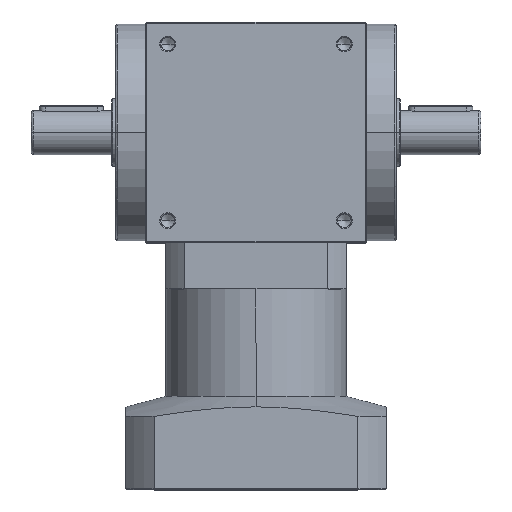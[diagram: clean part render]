
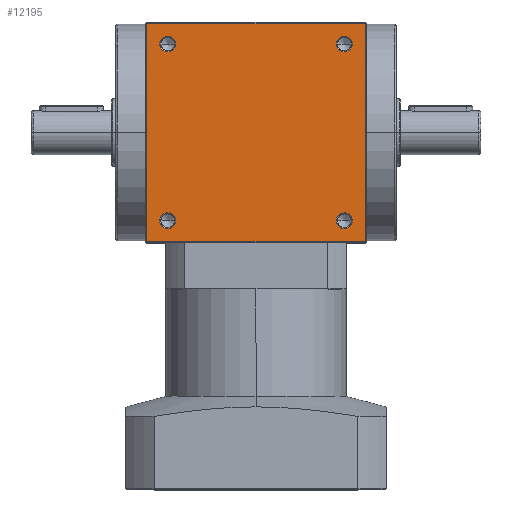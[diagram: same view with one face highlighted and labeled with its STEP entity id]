
A CAD part, top view. The second image highlights one B-rep face of the part: STEP entity #12195.
In plain terms, the highlighted planar face has unit normal (0, 0, 1).
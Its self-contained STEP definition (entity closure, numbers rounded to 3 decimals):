
#14 = EDGE_LOOP ( 'NONE', ( #1910, #8520 ) ) ;
#142 = VECTOR ( 'NONE', #5397, 1000. ) ;
#143 = CARTESIAN_POINT ( 'NONE',  ( 54.5, -54.5, 55. ) ) ;
#589 = CARTESIAN_POINT ( 'NONE',  ( -44., -40.1, 55. ) ) ;
#760 = DIRECTION ( 'NONE',  ( 0., -1., 0. ) ) ;
#852 = CARTESIAN_POINT ( 'NONE',  ( 40.1, 44., 55. ) ) ;
#868 = DIRECTION ( 'NONE',  ( 0., -1., 0. ) ) ;
#888 = CARTESIAN_POINT ( 'NONE',  ( 44., 44., 55. ) ) ;
#982 = CARTESIAN_POINT ( 'NONE',  ( -44., 44., 55. ) ) ;
#1015 = ORIENTED_EDGE ( 'NONE', *, *, #3643, .F. ) ;
#1024 = DIRECTION ( 'NONE',  ( 0., -1., 0. ) ) ;
#1037 = DIRECTION ( 'NONE',  ( 0., 0., 1. ) ) ;
#1047 = CARTESIAN_POINT ( 'NONE',  ( -44., -44., 55. ) ) ;
#1146 = CARTESIAN_POINT ( 'NONE',  ( -54.5, -54.5, 55. ) ) ;
#1253 = AXIS2_PLACEMENT_3D ( 'NONE', #1047, #1037, #1024 ) ;
#1785 = EDGE_CURVE ( 'NONE', #11563, #1845, #8173, .T. ) ;
#1845 = VERTEX_POINT ( 'NONE', #589 ) ;
#1851 = DIRECTION ( 'NONE',  ( 1., 0., 0. ) ) ;
#1910 = ORIENTED_EDGE ( 'NONE', *, *, #10481, .F. ) ;
#1981 = DIRECTION ( 'NONE',  ( 0., 0., 1. ) ) ;
#2032 = CARTESIAN_POINT ( 'NONE',  ( -44., -44., 55. ) ) ;
#2167 = CIRCLE ( 'NONE', #5745, 3.9 ) ;
#2204 = DIRECTION ( 'NONE',  ( 0., 0., -1. ) ) ;
#2313 = CIRCLE ( 'NONE', #8704, 3.9 ) ;
#2352 = EDGE_CURVE ( 'NONE', #10048, #9901, #10584, .T. ) ;
#2376 = CARTESIAN_POINT ( 'NONE',  ( 47.9, 44., 55. ) ) ;
#2526 = CARTESIAN_POINT ( 'NONE',  ( 0., 54.5, 55. ) ) ;
#2738 = DIRECTION ( 'NONE',  ( -1., 0., 0. ) ) ;
#3001 = AXIS2_PLACEMENT_3D ( 'NONE', #2032, #1981, #868 ) ;
#3063 = VERTEX_POINT ( 'NONE', #8662 ) ;
#3067 = CARTESIAN_POINT ( 'NONE',  ( 44., -44., 55. ) ) ;
#3335 = DIRECTION ( 'NONE',  ( 0., -1., 0. ) ) ;
#3350 = DIRECTION ( 'NONE',  ( 0., 0., 1. ) ) ;
#3353 = CARTESIAN_POINT ( 'NONE',  ( -44., 44., 55. ) ) ;
#3553 = VERTEX_POINT ( 'NONE', #4336 ) ;
#3643 = EDGE_CURVE ( 'NONE', #10087, #8526, #11285, .T. ) ;
#3749 = CARTESIAN_POINT ( 'NONE',  ( 54.5, 0., 55. ) ) ;
#3999 = DIRECTION ( 'NONE',  ( 0., -1., 0. ) ) ;
#4016 = EDGE_CURVE ( 'NONE', #8526, #10087, #8167, .T. ) ;
#4147 = ORIENTED_EDGE ( 'NONE', *, *, #2352, .T. ) ;
#4262 = EDGE_LOOP ( 'NONE', ( #8262, #8546, #4147, #5557 ) ) ;
#4336 = CARTESIAN_POINT ( 'NONE',  ( 44., -40.1, 55. ) ) ;
#4386 = ORIENTED_EDGE ( 'NONE', *, *, #8898, .F. ) ;
#4892 = FACE_OUTER_BOUND ( 'NONE', #4262, .T. ) ;
#4915 = ORIENTED_EDGE ( 'NONE', *, *, #5138, .F. ) ;
#5138 = EDGE_CURVE ( 'NONE', #1845, #11563, #9168, .T. ) ;
#5196 = AXIS2_PLACEMENT_3D ( 'NONE', #7816, #2204, #8770 ) ;
#5397 = DIRECTION ( 'NONE',  ( -1., 0., 0. ) ) ;
#5541 = DIRECTION ( 'NONE',  ( 0., -1., 0. ) ) ;
#5557 = ORIENTED_EDGE ( 'NONE', *, *, #7506, .F. ) ;
#5585 = CARTESIAN_POINT ( 'NONE',  ( -54.5, 0., 55. ) ) ;
#5613 = FACE_BOUND ( 'NONE', #10099, .T. ) ;
#5635 = ORIENTED_EDGE ( 'NONE', *, *, #4016, .F. ) ;
#5683 = PLANE ( 'NONE',  #5196 ) ;
#5691 = FACE_BOUND ( 'NONE', #6092, .T. ) ;
#5697 = AXIS2_PLACEMENT_3D ( 'NONE', #888, #7490, #1851 ) ;
#5745 = AXIS2_PLACEMENT_3D ( 'NONE', #12005, #6396, #760 ) ;
#5797 = EDGE_CURVE ( 'NONE', #11637, #10062, #2313, .T. ) ;
#5888 = CIRCLE ( 'NONE', #7068, 3.9 ) ;
#5922 = FACE_BOUND ( 'NONE', #14, .T. ) ;
#5975 = DIRECTION ( 'NONE',  ( 1., 0., 0. ) ) ;
#5989 = DIRECTION ( 'NONE',  ( 0., 0., 1. ) ) ;
#6028 = CARTESIAN_POINT ( 'NONE',  ( 44., 44., 55. ) ) ;
#6092 = EDGE_LOOP ( 'NONE', ( #1015, #5635 ) ) ;
#6396 = DIRECTION ( 'NONE',  ( 0., 0., 1. ) ) ;
#7068 = AXIS2_PLACEMENT_3D ( 'NONE', #3067, #9633, #3999 ) ;
#7229 = AXIS2_PLACEMENT_3D ( 'NONE', #982, #8626, #10730 ) ;
#7260 = ORIENTED_EDGE ( 'NONE', *, *, #1785, .F. ) ;
#7285 = CARTESIAN_POINT ( 'NONE',  ( -44., 47.9, 55. ) ) ;
#7289 = CARTESIAN_POINT ( 'NONE',  ( -44., 40.1, 55. ) ) ;
#7307 = EDGE_LOOP ( 'NONE', ( #9920, #4386 ) ) ;
#7490 = DIRECTION ( 'NONE',  ( 0., 0., 1. ) ) ;
#7506 = EDGE_CURVE ( 'NONE', #7751, #9901, #9976, .T. ) ;
#7659 = VERTEX_POINT ( 'NONE', #143 ) ;
#7751 = VERTEX_POINT ( 'NONE', #1146 ) ;
#7813 = CARTESIAN_POINT ( 'NONE',  ( -44., -47.9, 55. ) ) ;
#7816 = CARTESIAN_POINT ( 'NONE',  ( 0., 0., 55. ) ) ;
#7979 = VECTOR ( 'NONE', #5541, 1000. ) ;
#8167 = CIRCLE ( 'NONE', #7229, 3.9 ) ;
#8173 = CIRCLE ( 'NONE', #1253, 3.9 ) ;
#8262 = ORIENTED_EDGE ( 'NONE', *, *, #9296, .F. ) ;
#8311 = EDGE_CURVE ( 'NONE', #10048, #7659, #11233, .T. ) ;
#8520 = ORIENTED_EDGE ( 'NONE', *, *, #5797, .F. ) ;
#8526 = VERTEX_POINT ( 'NONE', #7285 ) ;
#8546 = ORIENTED_EDGE ( 'NONE', *, *, #8311, .F. ) ;
#8626 = DIRECTION ( 'NONE',  ( 0., 0., 1. ) ) ;
#8662 = CARTESIAN_POINT ( 'NONE',  ( 44., -47.9, 55. ) ) ;
#8704 = AXIS2_PLACEMENT_3D ( 'NONE', #6028, #5989, #5975 ) ;
#8770 = DIRECTION ( 'NONE',  ( -1., 0., 0. ) ) ;
#8898 = EDGE_CURVE ( 'NONE', #3553, #3063, #5888, .T. ) ;
#9163 = EDGE_CURVE ( 'NONE', #3063, #3553, #2167, .T. ) ;
#9168 = CIRCLE ( 'NONE', #3001, 3.9 ) ;
#9253 = CARTESIAN_POINT ( 'NONE',  ( -54.5, 54.5, 55. ) ) ;
#9296 = EDGE_CURVE ( 'NONE', #7659, #7751, #10632, .T. ) ;
#9401 = FACE_BOUND ( 'NONE', #7307, .T. ) ;
#9633 = DIRECTION ( 'NONE',  ( 0., 0., 1. ) ) ;
#9901 = VERTEX_POINT ( 'NONE', #9253 ) ;
#9920 = ORIENTED_EDGE ( 'NONE', *, *, #9163, .F. ) ;
#9976 = LINE ( 'NONE', #5585, #10662 ) ;
#10048 = VERTEX_POINT ( 'NONE', #11693 ) ;
#10062 = VERTEX_POINT ( 'NONE', #2376 ) ;
#10087 = VERTEX_POINT ( 'NONE', #7289 ) ;
#10099 = EDGE_LOOP ( 'NONE', ( #7260, #4915 ) ) ;
#10481 = EDGE_CURVE ( 'NONE', #10062, #11637, #10569, .T. ) ;
#10569 = CIRCLE ( 'NONE', #5697, 3.9 ) ;
#10577 = AXIS2_PLACEMENT_3D ( 'NONE', #3353, #3350, #3335 ) ;
#10584 = LINE ( 'NONE', #2526, #11634 ) ;
#10632 = LINE ( 'NONE', #11958, #142 ) ;
#10662 = VECTOR ( 'NONE', #12154, 1000. ) ;
#10730 = DIRECTION ( 'NONE',  ( 0., -1., 0. ) ) ;
#11233 = LINE ( 'NONE', #3749, #7979 ) ;
#11285 = CIRCLE ( 'NONE', #10577, 3.9 ) ;
#11563 = VERTEX_POINT ( 'NONE', #7813 ) ;
#11634 = VECTOR ( 'NONE', #2738, 1000. ) ;
#11637 = VERTEX_POINT ( 'NONE', #852 ) ;
#11693 = CARTESIAN_POINT ( 'NONE',  ( 54.5, 54.5, 55. ) ) ;
#11958 = CARTESIAN_POINT ( 'NONE',  ( 0., -54.5, 55. ) ) ;
#12005 = CARTESIAN_POINT ( 'NONE',  ( 44., -44., 55. ) ) ;
#12154 = DIRECTION ( 'NONE',  ( 0., 1., 0. ) ) ;
#12195 = ADVANCED_FACE ( 'NONE', ( #5691, #5922, #5613, #9401, #4892 ), #5683, .F. ) ;
